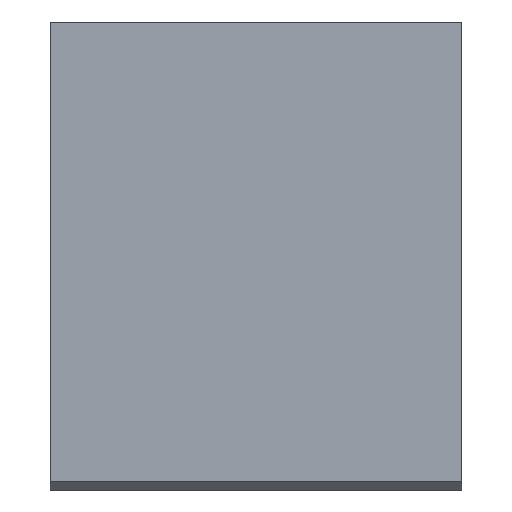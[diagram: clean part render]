
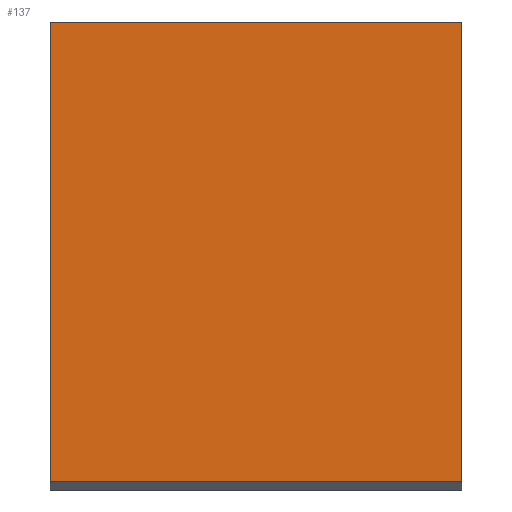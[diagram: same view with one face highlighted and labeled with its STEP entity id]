
A CAD part, front view. The second image highlights one B-rep face of the part: STEP entity #137.
In plain terms, the highlighted planar face has unit normal (0, -1, 0).
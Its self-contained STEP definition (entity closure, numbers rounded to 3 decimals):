
#21 = EDGE_CURVE('',#22,#24,#26,.T.);
#22 = VERTEX_POINT('',#23);
#23 = CARTESIAN_POINT('',(-29.,-31.,-217.84));
#24 = VERTEX_POINT('',#25);
#25 = CARTESIAN_POINT('',(29.,-31.,-217.84));
#26 = SURFACE_CURVE('',#27,(#31,#43),.PCURVE_S1.);
#27 = LINE('',#28,#29);
#28 = CARTESIAN_POINT('',(-29.,-31.,-217.84));
#29 = VECTOR('',#30,1.);
#30 = DIRECTION('',(1.,0.,0.));
#31 = PCURVE('',#32,#37);
#32 = PLANE('',#33);
#33 = AXIS2_PLACEMENT_3D('',#34,#35,#36);
#34 = CARTESIAN_POINT('',(-29.,-31.,-217.84));
#35 = DIRECTION('',(-0.,0.707,0.707));
#36 = DIRECTION('',(0.,0.707,-0.707));
#37 = DEFINITIONAL_REPRESENTATION('',(#38),#42);
#38 = LINE('',#39,#40);
#39 = CARTESIAN_POINT('',(0.,0.));
#40 = VECTOR('',#41,1.);
#41 = DIRECTION('',(0.,-1.));
#42 = ( GEOMETRIC_REPRESENTATION_CONTEXT(2) 
PARAMETRIC_REPRESENTATION_CONTEXT() REPRESENTATION_CONTEXT('2D SPACE',''
  ) );
#43 = PCURVE('',#44,#49);
#44 = PLANE('',#45);
#45 = AXIS2_PLACEMENT_3D('',#46,#47,#48);
#46 = CARTESIAN_POINT('',(-29.,-31.,-153.04));
#47 = DIRECTION('',(-0.,1.,0.));
#48 = DIRECTION('',(0.,0.,-1.));
#49 = DEFINITIONAL_REPRESENTATION('',(#50),#54);
#50 = LINE('',#51,#52);
#51 = CARTESIAN_POINT('',(64.8,0.));
#52 = VECTOR('',#53,1.);
#53 = DIRECTION('',(0.,-1.));
#54 = ( GEOMETRIC_REPRESENTATION_CONTEXT(2) 
PARAMETRIC_REPRESENTATION_CONTEXT() REPRESENTATION_CONTEXT('2D SPACE',''
  ) );
#72 = PLANE('',#73);
#73 = AXIS2_PLACEMENT_3D('',#74,#75,#76);
#74 = CARTESIAN_POINT('',(29.,-30.244,-185.865));
#75 = DIRECTION('',(1.,0.,0.));
#76 = DIRECTION('',(-0.,0.,1.));
#126 = PLANE('',#127);
#127 = AXIS2_PLACEMENT_3D('',#128,#129,#130);
#128 = CARTESIAN_POINT('',(-29.,-30.244,-185.865));
#129 = DIRECTION('',(1.,0.,0.));
#130 = DIRECTION('',(-0.,0.,1.));
#137 = ADVANCED_FACE('',(#138),#44,.F.);
#138 = FACE_BOUND('',#139,.F.);
#139 = EDGE_LOOP('',(#140,#170,#191,#192));
#140 = ORIENTED_EDGE('',*,*,#141,.T.);
#141 = EDGE_CURVE('',#142,#144,#146,.T.);
#142 = VERTEX_POINT('',#143);
#143 = CARTESIAN_POINT('',(-29.,-31.,-153.04));
#144 = VERTEX_POINT('',#145);
#145 = CARTESIAN_POINT('',(29.,-31.,-153.04));
#146 = SURFACE_CURVE('',#147,(#151,#158),.PCURVE_S1.);
#147 = LINE('',#148,#149);
#148 = CARTESIAN_POINT('',(-29.,-31.,-153.04));
#149 = VECTOR('',#150,1.);
#150 = DIRECTION('',(1.,0.,0.));
#151 = PCURVE('',#44,#152);
#152 = DEFINITIONAL_REPRESENTATION('',(#153),#157);
#153 = LINE('',#154,#155);
#154 = CARTESIAN_POINT('',(0.,0.));
#155 = VECTOR('',#156,1.);
#156 = DIRECTION('',(0.,-1.));
#157 = ( GEOMETRIC_REPRESENTATION_CONTEXT(2) 
PARAMETRIC_REPRESENTATION_CONTEXT() REPRESENTATION_CONTEXT('2D SPACE',''
  ) );
#158 = PCURVE('',#159,#164);
#159 = PLANE('',#160);
#160 = AXIS2_PLACEMENT_3D('',#161,#162,#163);
#161 = CARTESIAN_POINT('',(-29.,-29.5,-153.04));
#162 = DIRECTION('',(0.,0.,-1.));
#163 = DIRECTION('',(0.,-1.,0.));
#164 = DEFINITIONAL_REPRESENTATION('',(#165),#169);
#165 = LINE('',#166,#167);
#166 = CARTESIAN_POINT('',(1.5,0.));
#167 = VECTOR('',#168,1.);
#168 = DIRECTION('',(0.,-1.));
#169 = ( GEOMETRIC_REPRESENTATION_CONTEXT(2) 
PARAMETRIC_REPRESENTATION_CONTEXT() REPRESENTATION_CONTEXT('2D SPACE',''
  ) );
#170 = ORIENTED_EDGE('',*,*,#171,.T.);
#171 = EDGE_CURVE('',#144,#24,#172,.T.);
#172 = SURFACE_CURVE('',#173,(#177,#184),.PCURVE_S1.);
#173 = LINE('',#174,#175);
#174 = CARTESIAN_POINT('',(29.,-31.,-153.04));
#175 = VECTOR('',#176,1.);
#176 = DIRECTION('',(0.,0.,-1.));
#177 = PCURVE('',#44,#178);
#178 = DEFINITIONAL_REPRESENTATION('',(#179),#183);
#179 = LINE('',#180,#181);
#180 = CARTESIAN_POINT('',(0.,-58.));
#181 = VECTOR('',#182,1.);
#182 = DIRECTION('',(1.,0.));
#183 = ( GEOMETRIC_REPRESENTATION_CONTEXT(2) 
PARAMETRIC_REPRESENTATION_CONTEXT() REPRESENTATION_CONTEXT('2D SPACE',''
  ) );
#184 = PCURVE('',#72,#185);
#185 = DEFINITIONAL_REPRESENTATION('',(#186),#190);
#186 = LINE('',#187,#188);
#187 = CARTESIAN_POINT('',(32.825,0.756));
#188 = VECTOR('',#189,1.);
#189 = DIRECTION('',(-1.,0.));
#190 = ( GEOMETRIC_REPRESENTATION_CONTEXT(2) 
PARAMETRIC_REPRESENTATION_CONTEXT() REPRESENTATION_CONTEXT('2D SPACE',''
  ) );
#191 = ORIENTED_EDGE('',*,*,#21,.F.);
#192 = ORIENTED_EDGE('',*,*,#193,.F.);
#193 = EDGE_CURVE('',#142,#22,#194,.T.);
#194 = SURFACE_CURVE('',#195,(#199,#206),.PCURVE_S1.);
#195 = LINE('',#196,#197);
#196 = CARTESIAN_POINT('',(-29.,-31.,-153.04));
#197 = VECTOR('',#198,1.);
#198 = DIRECTION('',(0.,0.,-1.));
#199 = PCURVE('',#44,#200);
#200 = DEFINITIONAL_REPRESENTATION('',(#201),#205);
#201 = LINE('',#202,#203);
#202 = CARTESIAN_POINT('',(0.,0.));
#203 = VECTOR('',#204,1.);
#204 = DIRECTION('',(1.,0.));
#205 = ( GEOMETRIC_REPRESENTATION_CONTEXT(2) 
PARAMETRIC_REPRESENTATION_CONTEXT() REPRESENTATION_CONTEXT('2D SPACE',''
  ) );
#206 = PCURVE('',#126,#207);
#207 = DEFINITIONAL_REPRESENTATION('',(#208),#212);
#208 = LINE('',#209,#210);
#209 = CARTESIAN_POINT('',(32.825,0.756));
#210 = VECTOR('',#211,1.);
#211 = DIRECTION('',(-1.,0.));
#212 = ( GEOMETRIC_REPRESENTATION_CONTEXT(2) 
PARAMETRIC_REPRESENTATION_CONTEXT() REPRESENTATION_CONTEXT('2D SPACE',''
  ) );
